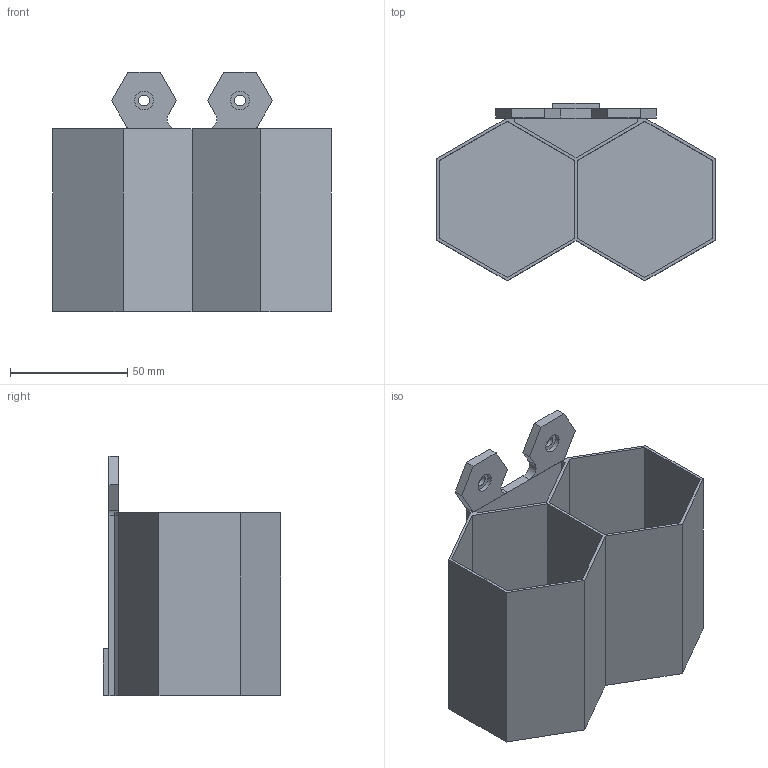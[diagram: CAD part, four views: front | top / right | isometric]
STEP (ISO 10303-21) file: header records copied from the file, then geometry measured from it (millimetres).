
FILE_DESCRIPTION(/* description */ (''),/* implementation_level */ '2;1');
FILE_NAME(/* name */ 'Storage box 2X60mm.step',/* time_stamp */ '2022-12-03T09:58:21Z',/* author */ (''),/* organization */ (''),/* preprocessor_version */ 'ST-DEVELOPER v19.2',/* originating_system */ 'Autodesk Translation Framework v11.17.0.187',/* authorisation */ '');
FILE_SCHEMA (('AUTOMOTIVE_DESIGN { 1 0 10303 214 3 1 1 }'));
Length unit declared in the file: millimetre
Products named in the file (1): Storage box 2X60mm
Bounding box: 118.8 x 75.78 x 102 mm (x, y, z)
Volume: 76937.8 mm3; surface area: 81783.3 mm2
Topology: 1 solids, 1 shells, 65 faces, 172 edges, 114 vertices
Faces by surface type: plane 55, cylinder 8, cone 2
Full cylindrical faces by diameter (mm): 4.6 x2, 8 x2
Entity records: 2029 total; most frequent: CARTESIAN_POINT 356, ORIENTED_EDGE 344, DIRECTION 322, EDGE_CURVE 172, LINE 150, VECTOR 150, VERTEX_POINT 114, AXIS2_PLACEMENT_3D 86
